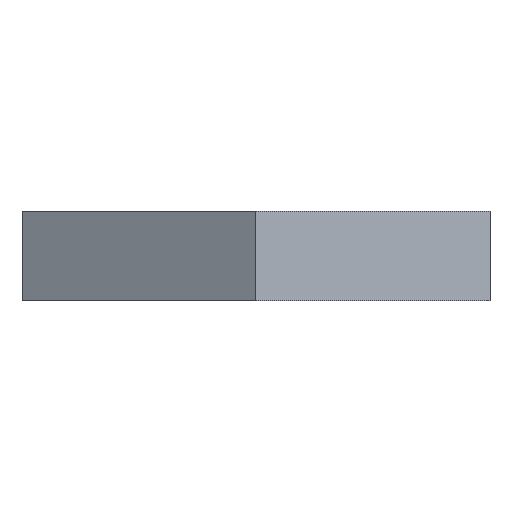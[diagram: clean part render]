
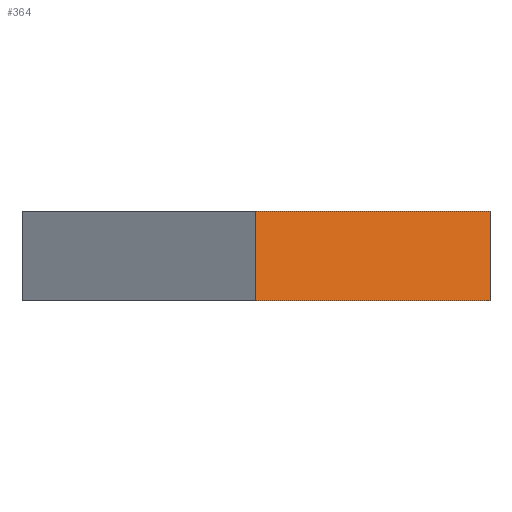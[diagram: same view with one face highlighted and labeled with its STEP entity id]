
A CAD part, left-side view. The second image highlights one B-rep face of the part: STEP entity #364.
In plain terms, the highlighted planar face has unit normal (-0.866, -0.5, 0).
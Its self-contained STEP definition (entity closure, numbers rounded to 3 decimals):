
#31=PLANE('',#402);
#52=FACE_OUTER_BOUND('',#72,.T.);
#72=EDGE_LOOP('',(#312,#313,#314,#315));
#116=LINE('',#1707,#141);
#120=LINE('',#1715,#145);
#121=LINE('',#1718,#146);
#122=LINE('',#1719,#147);
#141=VECTOR('',#456,10.);
#145=VECTOR('',#464,10.);
#146=VECTOR('',#467,10.);
#147=VECTOR('',#468,10.);
#181=VERTEX_POINT('',#1704);
#182=VERTEX_POINT('',#1706);
#183=VERTEX_POINT('',#1711);
#185=VERTEX_POINT('',#1717);
#226=EDGE_CURVE('',#181,#182,#116,.T.);
#230=EDGE_CURVE('',#183,#182,#120,.T.);
#231=EDGE_CURVE('',#185,#183,#121,.T.);
#232=EDGE_CURVE('',#185,#181,#122,.T.);
#312=ORIENTED_EDGE('',*,*,#231,.T.);
#313=ORIENTED_EDGE('',*,*,#230,.T.);
#314=ORIENTED_EDGE('',*,*,#226,.F.);
#315=ORIENTED_EDGE('',*,*,#232,.F.);
#364=ADVANCED_FACE('',(#52),#31,.T.);
#402=AXIS2_PLACEMENT_3D('',#1716,#465,#466);
#456=DIRECTION('',(0.5,-0.866,0.));
#464=DIRECTION('',(0.,0.,1.));
#465=DIRECTION('center_axis',(-0.866,-0.5,0.));
#466=DIRECTION('ref_axis',(0.5,-0.866,0.));
#467=DIRECTION('',(0.5,-0.866,0.));
#468=DIRECTION('',(0.,0.,1.));
#1704=CARTESIAN_POINT('',(-15.047,136.854,101.5));
#1706=CARTESIAN_POINT('',(-7.523,123.823,101.5));
#1707=CARTESIAN_POINT('',(-15.047,136.854,101.5));
#1711=CARTESIAN_POINT('',(-7.523,123.823,96.5));
#1715=CARTESIAN_POINT('',(-7.523,123.823,96.5));
#1716=CARTESIAN_POINT('Origin',(-15.047,136.854,96.5));
#1717=CARTESIAN_POINT('',(-15.047,136.854,96.5));
#1718=CARTESIAN_POINT('',(-15.047,136.854,96.5));
#1719=CARTESIAN_POINT('',(-15.047,136.854,96.5));
